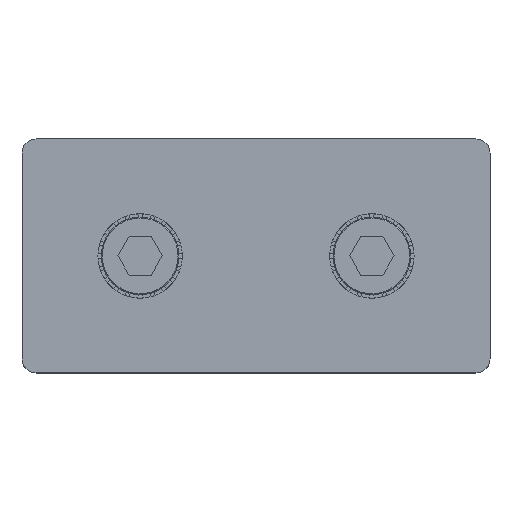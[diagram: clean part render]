
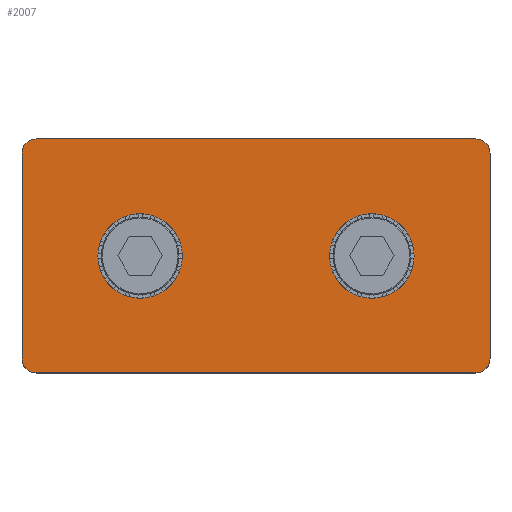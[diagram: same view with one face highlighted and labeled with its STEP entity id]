
A CAD part, top view. The second image highlights one B-rep face of the part: STEP entity #2007.
In plain terms, the highlighted planar face has unit normal (0, 0, 1).
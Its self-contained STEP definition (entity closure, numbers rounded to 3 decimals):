
#96 = ORIENTED_EDGE ( 'NONE', *, *, #8474, .T. ) ;
#103 = DIRECTION ( 'NONE',  ( 0., -1., 0. ) ) ;
#150 = ORIENTED_EDGE ( 'NONE', *, *, #737, .T. ) ;
#226 = VECTOR ( 'NONE', #103, 1000. ) ;
#425 = LINE ( 'NONE', #4087, #226 ) ;
#437 = AXIS2_PLACEMENT_3D ( 'NONE', #6330, #2353, #7012 ) ;
#494 = DIRECTION ( 'NONE',  ( 0., 1., 0. ) ) ;
#532 = DIRECTION ( 'NONE',  ( 0., 0., 1. ) ) ;
#587 = CIRCLE ( 'NONE', #8433, 1.5 ) ;
#599 = PLANE ( 'NONE',  #5645 ) ;
#726 = EDGE_LOOP ( 'NONE', ( #1636, #6763 ) ) ;
#737 = EDGE_CURVE ( 'NONE', #4107, #2257, #6715, .T. ) ;
#796 = LINE ( 'NONE', #3748, #7692 ) ;
#901 = ORIENTED_EDGE ( 'NONE', *, *, #1331, .T. ) ;
#1043 = VERTEX_POINT ( 'NONE', #5741 ) ;
#1054 = CARTESIAN_POINT ( 'NONE',  ( -4.293, 13.327, 39.773 ) ) ;
#1068 = CARTESIAN_POINT ( 'NONE',  ( 44.207, 36.827, 39.773 ) ) ;
#1076 = CIRCLE ( 'NONE', #1847, 2.65 ) ;
#1117 = EDGE_CURVE ( 'NONE', #6596, #4285, #6222, .T. ) ;
#1221 = DIRECTION ( 'NONE',  ( 1., 0., 0. ) ) ;
#1222 = DIRECTION ( 'NONE',  ( 1., 0., 0. ) ) ;
#1233 = DIRECTION ( 'NONE',  ( 0., 0., 1. ) ) ;
#1331 = EDGE_CURVE ( 'NONE', #2621, #3180, #796, .T. ) ;
#1332 = EDGE_CURVE ( 'NONE', #3180, #8538, #587, .T. ) ;
#1343 = CARTESIAN_POINT ( 'NONE',  ( 6.825, 25.827, 39.773 ) ) ;
#1636 = ORIENTED_EDGE ( 'NONE', *, *, #4758, .F. ) ;
#1693 = CIRCLE ( 'NONE', #3351, 1.5 ) ;
#1703 = AXIS2_PLACEMENT_3D ( 'NONE', #6324, #2068, #3719 ) ;
#1707 = CARTESIAN_POINT ( 'NONE',  ( 34.475, 25.827, 39.773 ) ) ;
#1816 = VERTEX_POINT ( 'NONE', #7262 ) ;
#1847 = AXIS2_PLACEMENT_3D ( 'NONE', #4523, #532, #5206 ) ;
#1858 = CARTESIAN_POINT ( 'NONE',  ( 42.707, 36.827, 39.773 ) ) ;
#1952 = FACE_OUTER_BOUND ( 'NONE', #4303, .T. ) ;
#2004 = ORIENTED_EDGE ( 'NONE', *, *, #4915, .T. ) ;
#2007 = ADVANCED_FACE ( 'NONE', ( #7057, #7283, #1952 ), #599, .T. ) ;
#2020 = CARTESIAN_POINT ( 'NONE',  ( 4.175, 25.827, 39.773 ) ) ;
#2068 = DIRECTION ( 'NONE',  ( 0., 0., 1. ) ) ;
#2257 = VERTEX_POINT ( 'NONE', #1054 ) ;
#2265 = ORIENTED_EDGE ( 'NONE', *, *, #6974, .T. ) ;
#2353 = DIRECTION ( 'NONE',  ( 0., 0., 1. ) ) ;
#2366 = ORIENTED_EDGE ( 'NONE', *, *, #1332, .T. ) ;
#2527 = DIRECTION ( 'NONE',  ( 1., 0., 0. ) ) ;
#2621 = VERTEX_POINT ( 'NONE', #3592 ) ;
#3180 = VERTEX_POINT ( 'NONE', #4496 ) ;
#3351 = AXIS2_PLACEMENT_3D ( 'NONE', #1858, #6512, #2527 ) ;
#3440 = VERTEX_POINT ( 'NONE', #1707 ) ;
#3592 = CARTESIAN_POINT ( 'NONE',  ( 42.707, 38.327, 39.773 ) ) ;
#3631 = CARTESIAN_POINT ( 'NONE',  ( 42.707, 13.327, 39.773 ) ) ;
#3637 = ORIENTED_EDGE ( 'NONE', *, *, #8300, .T. ) ;
#3665 = CIRCLE ( 'NONE', #437, 1.5 ) ;
#3719 = DIRECTION ( 'NONE',  ( 1., 0., 0. ) ) ;
#3748 = CARTESIAN_POINT ( 'NONE',  ( 42.707, 38.327, 39.773 ) ) ;
#3863 = CARTESIAN_POINT ( 'NONE',  ( 31.825, 25.827, 39.773 ) ) ;
#3936 = CARTESIAN_POINT ( 'NONE',  ( 9.475, 25.827, 39.773 ) ) ;
#4047 = EDGE_CURVE ( 'NONE', #1816, #5492, #7981, .T. ) ;
#4087 = CARTESIAN_POINT ( 'NONE',  ( -5.793, 36.827, 39.773 ) ) ;
#4089 = EDGE_CURVE ( 'NONE', #4285, #6596, #1076, .T. ) ;
#4107 = VERTEX_POINT ( 'NONE', #4559 ) ;
#4285 = VERTEX_POINT ( 'NONE', #2020 ) ;
#4303 = EDGE_LOOP ( 'NONE', ( #150, #2265, #2004, #6295, #3637, #901, #2366, #96 ) ) ;
#4473 = CIRCLE ( 'NONE', #7632, 2.65 ) ;
#4496 = CARTESIAN_POINT ( 'NONE',  ( -4.293, 38.327, 39.773 ) ) ;
#4523 = CARTESIAN_POINT ( 'NONE',  ( 6.825, 25.827, 39.773 ) ) ;
#4540 = DIRECTION ( 'NONE',  ( -1., 0., 0. ) ) ;
#4559 = CARTESIAN_POINT ( 'NONE',  ( -5.793, 14.827, 39.773 ) ) ;
#4723 = CIRCLE ( 'NONE', #5975, 2.65 ) ;
#4734 = DIRECTION ( 'NONE',  ( -1., 0., 0. ) ) ;
#4758 = EDGE_CURVE ( 'NONE', #3440, #1043, #4723, .T. ) ;
#4915 = EDGE_CURVE ( 'NONE', #5877, #1816, #3665, .T. ) ;
#5065 = DIRECTION ( 'NONE',  ( 0., 0., 1. ) ) ;
#5206 = DIRECTION ( 'NONE',  ( -1., 0., 0. ) ) ;
#5232 = CARTESIAN_POINT ( 'NONE',  ( 31.825, 25.827, 39.773 ) ) ;
#5325 = DIRECTION ( 'NONE',  ( 1., 0., 0. ) ) ;
#5462 = AXIS2_PLACEMENT_3D ( 'NONE', #1343, #6061, #4734 ) ;
#5492 = VERTEX_POINT ( 'NONE', #1068 ) ;
#5645 = AXIS2_PLACEMENT_3D ( 'NONE', #8058, #8610, #5325 ) ;
#5684 = EDGE_LOOP ( 'NONE', ( #8635, #5931 ) ) ;
#5741 = CARTESIAN_POINT ( 'NONE',  ( 29.175, 25.827, 39.773 ) ) ;
#5877 = VERTEX_POINT ( 'NONE', #3631 ) ;
#5908 = DIRECTION ( 'NONE',  ( -1., 0., 0. ) ) ;
#5931 = ORIENTED_EDGE ( 'NONE', *, *, #4089, .F. ) ;
#5975 = AXIS2_PLACEMENT_3D ( 'NONE', #5232, #1233, #5908 ) ;
#5982 = CARTESIAN_POINT ( 'NONE',  ( -4.293, 36.827, 39.773 ) ) ;
#6051 = VECTOR ( 'NONE', #1221, 1000. ) ;
#6061 = DIRECTION ( 'NONE',  ( 0., 0., 1. ) ) ;
#6155 = CARTESIAN_POINT ( 'NONE',  ( -5.793, 36.827, 39.773 ) ) ;
#6183 = VECTOR ( 'NONE', #494, 1000. ) ;
#6222 = CIRCLE ( 'NONE', #5462, 2.65 ) ;
#6251 = LINE ( 'NONE', #7880, #6051 ) ;
#6295 = ORIENTED_EDGE ( 'NONE', *, *, #4047, .T. ) ;
#6324 = CARTESIAN_POINT ( 'NONE',  ( -4.293, 14.827, 39.773 ) ) ;
#6330 = CARTESIAN_POINT ( 'NONE',  ( 42.707, 14.827, 39.773 ) ) ;
#6512 = DIRECTION ( 'NONE',  ( 0., 0., 1. ) ) ;
#6596 = VERTEX_POINT ( 'NONE', #3936 ) ;
#6715 = CIRCLE ( 'NONE', #1703, 1.5 ) ;
#6763 = ORIENTED_EDGE ( 'NONE', *, *, #6964, .F. ) ;
#6964 = EDGE_CURVE ( 'NONE', #1043, #3440, #4473, .T. ) ;
#6974 = EDGE_CURVE ( 'NONE', #2257, #5877, #6251, .T. ) ;
#7012 = DIRECTION ( 'NONE',  ( 1., 0., 0. ) ) ;
#7057 = FACE_BOUND ( 'NONE', #5684, .T. ) ;
#7262 = CARTESIAN_POINT ( 'NONE',  ( 44.207, 14.827, 39.773 ) ) ;
#7283 = FACE_BOUND ( 'NONE', #726, .T. ) ;
#7631 = DIRECTION ( 'NONE',  ( -1., 0., 0. ) ) ;
#7632 = AXIS2_PLACEMENT_3D ( 'NONE', #3863, #8554, #4540 ) ;
#7692 = VECTOR ( 'NONE', #7631, 1000. ) ;
#7833 = CARTESIAN_POINT ( 'NONE',  ( 44.207, 14.827, 39.773 ) ) ;
#7880 = CARTESIAN_POINT ( 'NONE',  ( -4.293, 13.327, 39.773 ) ) ;
#7981 = LINE ( 'NONE', #7833, #6183 ) ;
#8058 = CARTESIAN_POINT ( 'NONE',  ( -4.293, 14.827, 39.773 ) ) ;
#8300 = EDGE_CURVE ( 'NONE', #5492, #2621, #1693, .T. ) ;
#8433 = AXIS2_PLACEMENT_3D ( 'NONE', #5982, #5065, #1222 ) ;
#8474 = EDGE_CURVE ( 'NONE', #8538, #4107, #425, .T. ) ;
#8538 = VERTEX_POINT ( 'NONE', #6155 ) ;
#8554 = DIRECTION ( 'NONE',  ( 0., 0., 1. ) ) ;
#8610 = DIRECTION ( 'NONE',  ( 0., 0., 1. ) ) ;
#8635 = ORIENTED_EDGE ( 'NONE', *, *, #1117, .F. ) ;
